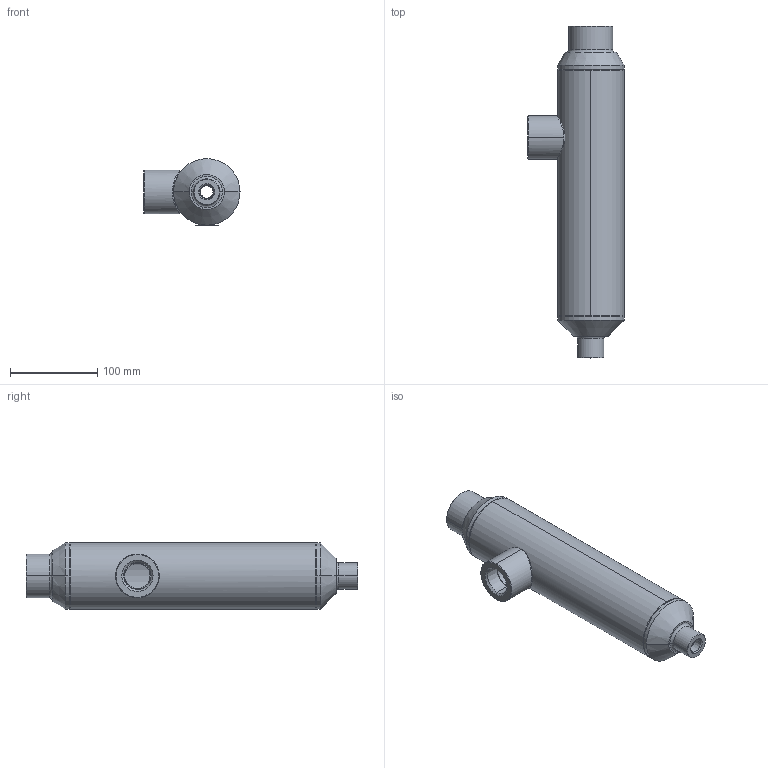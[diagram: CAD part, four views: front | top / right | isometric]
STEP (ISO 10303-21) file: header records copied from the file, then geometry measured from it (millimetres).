
FILE_DESCRIPTION (( 'STEP AP203' ), '1' );
FILE_NAME ('FAPP-T10-DUP01535_2022FEB16_0.STEP', '2022-02-16T15:45:08', ( '' ), ( '' ), 'SwSTEP 2.0', 'SolidWorks 2020', '' );
FILE_SCHEMA (( 'CONFIG_CONTROL_DESIGN' ));
Length unit declared in the file: millimetre
Products named in the file (1): FAPP-T10-DUP01535_2022FEB16_0
Bounding box: 110.1 x 380 x 76.4 mm (x, y, z)
Surface area: 103276.8 mm2 (no closed solid volume)
Topology: 0 solids, 28 shells, 95 faces, 964 edges, 902 vertices
Faces by surface type: plane 40, cone 30, cylinder 18, torus 4, bspline 3
Entity records: 13695 total; most frequent: CARTESIAN_POINT 7522, ORIENTED_EDGE 1092, EDGE_CURVE 964, VERTEX_POINT 902, DIRECTION 898, LINE 544, VECTOR 544, B_SPLINE_CURVE_WITH_KNOTS 336
